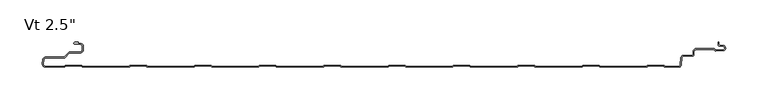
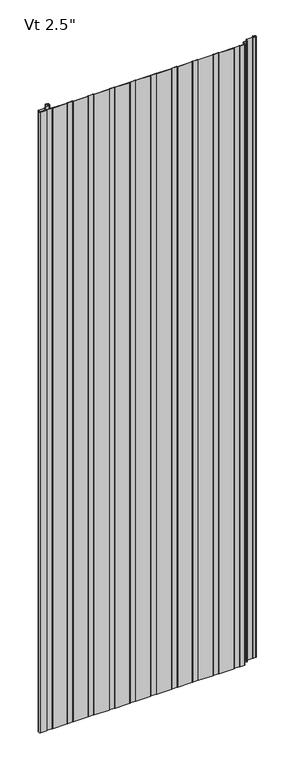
"""IFC4 building model written with IfcOpenShell, lengths in millimetres: plate geometry."""

from ifc_helpers import new_model, si_unit, point, frame_2d, origin, origin_with_axes, place, context, project, spatial, polyline, circle_curve, trimmed, segment, composite_curve, outline, extrude, source, transform, mapped, element, save


def plate_a5bf1575(model_context):
    return source(origin(), model_context, "Body", "SweptSolid", [
        extrude(outline(composite_curve([segment(polyline([(-391.6415934, -63.4997351), (-413.4521176, -63.4997351)]), True, "CONTINUOUS"), segment(trimmed(circle_curve(frame_2d((-413.4521176, -59.9294958)), 3.5702393), [point((-413.4521176, -63.4997351))], [point((-417.008762, -59.6182254))], False, "CARTESIAN"), True, "CONTINUOUS"), segment(polyline([(-417.008762, -59.6182254), (-416.5690675, -54.5941788)]), True, "CONTINUOUS"), segment(trimmed(circle_curve(frame_2d((-412.9198392, -55.2049799)), 3.6999926), [point((-416.5690675, -54.5941788))], [point((-412.9198392, -51.5049873))], False, "CARTESIAN"), True, "CONTINUOUS"), segment(polyline([(-412.9198392, -51.5049873), (-391.7773997, -51.5049873)]), True, "CONTINUOUS"), segment(trimmed(circle_curve(frame_2d((-391.7773997, -50.2049899)), 1.2999974), [point((-391.7773997, -51.5049873))], [point((-390.8581627, -51.1242269))], True, "CARTESIAN"), True, "CONTINUOUS"), segment(polyline([(-390.8581627, -51.1242269), (-386.0297453, -46.2958094)]), True, "CONTINUOUS"), segment(trimmed(circle_curve(frame_2d((-384.1205608, -48.2049939)), 2.6999946), [point((-386.0297453, -46.2958094))], [point((-384.1205608, -45.5049993))], False, "CARTESIAN"), True, "CONTINUOUS"), segment(polyline([(-384.1205608, -45.5049993), (-372.3096717, -45.5049993)]), True, "CONTINUOUS"), segment(trimmed(circle_curve(frame_2d((-372.3096717, -43.155004)), 2.3499953), [point((-372.3096717, -45.5049993))], [point((-369.9596764, -43.155004))], True, "CARTESIAN"), True, "CONTINUOUS"), segment(polyline([(-369.9596764, -43.155004), (-369.9596764, -38.7550128)]), True, "CONTINUOUS"), segment(trimmed(circle_curve(frame_2d((-372.3096717, -38.7550128)), 2.3499953), [point((-369.9596764, -38.7550128))], [point((-372.3096717, -36.4050175))], True, "CARTESIAN"), True, "CONTINUOUS"), segment(polyline([(-372.3096717, -36.4050175), (-378.8289779, -36.4050175)]), True, "CONTINUOUS"), segment(trimmed(circle_curve(frame_2d((-378.7686908, -35.2065352)), 1.1999976), [point((-378.8289779, -36.4050175))], [point((-379.9683001, -35.1760133))], False, "CARTESIAN"), True, "CONTINUOUS"), segment(trimmed(circle_curve(frame_2d((-378.7686908, -35.2065352)), 1.1999976), [point((-379.9683001, -35.1760133))], [point((-378.7671761, -34.0065386))], False, "CARTESIAN"), True, "CONTINUOUS"), segment(polyline([(-378.7671761, -34.0065386), (-375.0087827, -34.0065386), (-375.0087827, -35.4050175), (-372.3096717, -35.4050175)]), True, "CONTINUOUS"), segment(trimmed(circle_curve(frame_2d((-372.3096717, -38.7550128)), 3.3499953), [point((-372.3096717, -35.4050175))], [point((-368.9596764, -38.7550128))], False, "CARTESIAN"), True, "CONTINUOUS"), segment(polyline([(-368.9596764, -38.7550128), (-368.9596764, -43.155004)]), True, "CONTINUOUS"), segment(trimmed(circle_curve(frame_2d((-372.3096717, -43.155004)), 3.3499953), [point((-368.9596764, -43.155004))], [point((-372.3096717, -46.5049993))], False, "CARTESIAN"), True, "CONTINUOUS"), segment(polyline([(-372.3096717, -46.5049993), (-384.1205608, -46.5049993)]), True, "CONTINUOUS"), segment(trimmed(circle_curve(frame_2d((-384.1205608, -48.2049939)), 1.6999946), [point((-384.1205608, -46.5049993))], [point((-385.3226385, -47.0029162))], True, "CARTESIAN"), True, "CONTINUOUS"), segment(polyline([(-385.3226385, -47.0029162), (-390.8247096, -52.5049873), (-412.9198392, -52.5049873)]), True, "CONTINUOUS"), segment(trimmed(circle_curve(frame_2d((-412.9198392, -55.2049799)), 2.6999926), [point((-412.9198392, -52.5049873))], [point((-415.5765709, -54.7235893))], True, "CARTESIAN"), True, "CONTINUOUS"), segment(polyline([(-415.5765709, -54.7235893), (-416.0125699, -59.7054102)]), True, "CONTINUOUS"), segment(trimmed(circle_curve(frame_2d((-413.4521176, -59.9294958)), 2.5702393), [point((-416.0125699, -59.7054102))], [point((-413.4521176, -62.4997351))], True, "CARTESIAN"), True, "CONTINUOUS"), segment(polyline([(-413.4521176, -62.4997351), (-391.4790962, -62.4997351), (-390.2791277, -61.2997666), (-370.5597151, -61.2997666), (-369.3594844, -62.4999973), (-315.2793527, -62.4999973), (-314.079122, -61.2997666), (-294.3597095, -61.2997666), (-293.1594787, -62.4999973), (-239.079347, -62.4999973), (-237.8791163, -61.2997666), (-218.1597038, -61.2997666), (-216.9594731, -62.4999973), (-162.8793413, -62.4999973), (-161.6791106, -61.2997666), (-141.9596981, -61.2997666), (-140.7594674, -62.4999973), (-86.6793356, -62.4999973), (-85.4791049, -61.2997666), (-65.7596924, -61.2997666), (-64.5594617, -62.4999973), (-10.4793299, -62.4999973), (-9.2790992, -61.2997666), (10.4403133, -61.2997666), (11.640544, -62.4999973), (65.7206758, -62.4999973), (66.9209065, -61.2997666), (86.640319, -61.2997666), (87.8405497, -62.4999973), (141.9206815, -62.4999973), (143.1209122, -61.2997666), (162.8403247, -61.2997666), (164.0405554, -62.4999973), (218.1206872, -62.4999973), (219.3209179, -61.2997666), (239.0403304, -61.2997666), (240.2405611, -62.4999973), (294.3206929, -62.4999973), (295.5209236, -61.2997666), (315.2403361, -61.2997666), (316.4396652, -62.4990957), (332.5384359, -62.4990957)]), True, "CONTINUOUS"), segment(trimmed(circle_curve(frame_2d((332.5384359, -60.5491016)), 1.9499941), [point((332.5384359, -62.4990957))], [point((334.4810097, -60.7190548))], True, "CARTESIAN"), True, "CONTINUOUS"), segment(polyline([(334.4810097, -60.7190548), (335.2215397, -52.2547583)]), True, "CONTINUOUS"), segment(trimmed(circle_curve(frame_2d((338.2400056, -52.5188399)), 3.0299959), [point((335.2215397, -52.2547583))], [point((338.3657441, -49.491454))], False, "CARTESIAN"), True, "CONTINUOUS"), segment(polyline([(338.3657441, -49.491454), (348.4595941, -49.491454)]), True, "CONTINUOUS"), segment(trimmed(circle_curve(frame_2d((348.4595941, -48.5423006)), 0.9491534), [point((348.4595941, -49.491454))], [point((349.4087475, -48.5423006))], True, "CARTESIAN"), True, "CONTINUOUS"), segment(polyline([(349.4087475, -48.5423006), (349.4087475, -45.4009009)]), True, "CONTINUOUS"), segment(trimmed(circle_curve(frame_2d((353.4087415, -45.4009009)), 3.999994), [point((349.4087475, -45.4009009))], [point((353.4087415, -41.4009069))], False, "CARTESIAN"), True, "CONTINUOUS"), segment(polyline([(353.4087415, -41.4009069), (374.5895515, -41.4009069), (375.7334028, -43.3821154), (384.706811, -43.026855)]), True, "CONTINUOUS"), segment(trimmed(circle_curve(frame_2d((384.6236622, -40.9266264)), 2.1018739), [point((384.706811, -43.026855))], [point((384.7037148, -38.8262775))], True, "CARTESIAN"), True, "CONTINUOUS"), segment(polyline([(384.7037148, -38.8262775), (380.6977997, -38.5818625)]), True, "CONTINUOUS"), segment(trimmed(circle_curve(frame_2d((380.8099653, -36.743489)), 1.8417922), [point((380.6977997, -38.5818625))], [point((378.9686884, -36.78705))], False, "CARTESIAN"), True, "CONTINUOUS"), segment(polyline([(378.9686884, -36.78705), (378.9686884, -34.0025034), (379.9686884, -34.0025034), (379.9686884, -36.7729362)]), True, "CONTINUOUS"), segment(trimmed(circle_curve(frame_2d((380.8099653, -36.743489)), 0.8417922), [point((379.9686884, -36.7729362))], [point((380.7587, -37.5837187))], True, "CARTESIAN"), True, "CONTINUOUS"), segment(polyline([(380.7587, -37.5837187), (384.7543204, -37.8275055)]), True, "CONTINUOUS"), segment(trimmed(circle_curve(frame_2d((384.6236622, -40.9266264)), 3.1018739), [point((384.7543204, -37.8275055))], [point((384.7463704, -44.0260723))], False, "CARTESIAN"), True, "CONTINUOUS"), segment(polyline([(384.7463704, -44.0260723), (376.0344401, -44.3709806)]), True, "CONTINUOUS"), segment(trimmed(circle_curve(frame_2d((375.987224, -42.9217524)), 1.4499971), [point((376.0344401, -44.3709806))], [point((374.7314897, -43.646751))], False, "CARTESIAN"), True, "CONTINUOUS"), segment(polyline([(374.7314897, -43.646751), (374.0122013, -42.4009069), (353.4087415, -42.4009069)]), True, "CONTINUOUS"), segment(trimmed(circle_curve(frame_2d((353.4087415, -45.4009009)), 2.999994), [point((353.4087415, -42.4009069))], [point((350.4087475, -45.4009009))], True, "CARTESIAN"), True, "CONTINUOUS"), segment(polyline([(350.4087475, -45.4009009), (350.4087475, -48.5423006)]), True, "CONTINUOUS"), segment(trimmed(circle_curve(frame_2d((348.4595941, -48.5423006)), 1.9491534), [point((350.4087475, -48.5423006))], [point((348.4595941, -50.491454))], False, "CARTESIAN"), True, "CONTINUOUS"), segment(polyline([(348.4595941, -50.491454), (338.3429135, -50.491454)]), True, "CONTINUOUS"), segment(trimmed(circle_curve(frame_2d((338.2400056, -52.5188399)), 2.0299959), [point((338.3429135, -50.491454))], [point((336.2177344, -52.3419141))], True, "CARTESIAN"), True, "CONTINUOUS"), segment(polyline([(336.2177344, -52.3419141), (335.4772044, -60.8062105)]), True, "CONTINUOUS"), segment(trimmed(circle_curve(frame_2d((332.5384359, -60.5491016)), 2.9499941), [point((335.4772044, -60.8062105))], [point((332.5384359, -63.4990957))], False, "CARTESIAN"), True, "CONTINUOUS"), segment(polyline([(332.5384359, -63.4990957), (316.6525313, -63.4990957)]), True, "CONTINUOUS"), segment(trimmed(circle_curve(frame_2d((316.6017161, -62.100021)), 1.3999972), [point((316.6525313, -63.4990957))], [point((315.5576653, -63.0327322))], False, "CARTESIAN"), True, "CONTINUOUS"), segment(polyline([(315.5576653, -63.0327322), (314.8246997, -62.2997666), (295.9340305, -62.2997666), (295.2010858, -63.0327112)]), True, "CONTINUOUS"), segment(trimmed(circle_curve(frame_2d((294.157035, -62.1000001)), 1.3999972), [point((295.2010858, -63.0327112))], [point((294.157035, -63.4999973))], False, "CARTESIAN"), True, "CONTINUOUS"), segment(polyline([(294.157035, -63.4999973), (240.4095218, -63.4999973)]), True, "CONTINUOUS"), segment(trimmed(circle_curve(frame_2d((240.4018685, -62.100021)), 1.3999972), [point((240.4095218, -63.4999973))], [point((239.3578177, -63.0327322))], False, "CARTESIAN"), True, "CONTINUOUS"), segment(polyline([(239.3578177, -63.0327322), (238.6248521, -62.2997666), (219.7341829, -62.2997666), (219.0012382, -63.0327112)]), True, "CONTINUOUS"), segment(trimmed(circle_curve(frame_2d((217.9571874, -62.1000001)), 1.3999972), [point((219.0012382, -63.0327112))], [point((217.9571874, -63.4999973))], False, "CARTESIAN"), True, "CONTINUOUS"), segment(polyline([(217.9571874, -63.4999973), (164.2096742, -63.4999973)]), True, "CONTINUOUS"), segment(trimmed(circle_curve(frame_2d((164.2020209, -62.100021)), 1.3999972), [point((164.2096742, -63.4999973))], [point((163.1579701, -63.0327322))], False, "CARTESIAN"), True, "CONTINUOUS"), segment(polyline([(163.1579701, -63.0327322), (162.4250045, -62.2997666), (143.5343353, -62.2997666), (142.8013906, -63.0327112)]), True, "CONTINUOUS"), segment(trimmed(circle_curve(frame_2d((141.7573398, -62.1000001)), 1.3999972), [point((142.8013906, -63.0327112))], [point((141.7573398, -63.4999973))], False, "CARTESIAN"), True, "CONTINUOUS"), segment(polyline([(141.7573398, -63.4999973), (88.0098266, -63.4999973)]), True, "CONTINUOUS"), segment(trimmed(circle_curve(frame_2d((88.0021733, -62.100021)), 1.3999972), [point((88.0098266, -63.4999973))], [point((86.9581225, -63.0327322))], False, "CARTESIAN"), True, "CONTINUOUS"), segment(polyline([(86.9581225, -63.0327322), (86.2251569, -62.2997666), (67.3344877, -62.2997666), (66.601543, -63.0327112)]), True, "CONTINUOUS"), segment(trimmed(circle_curve(frame_2d((65.5574922, -62.1000001)), 1.3999972), [point((66.601543, -63.0327112))], [point((65.5574922, -63.4999973))], False, "CARTESIAN"), True, "CONTINUOUS"), segment(polyline([(65.5574922, -63.4999973), (11.809979, -63.4999973)]), True, "CONTINUOUS"), segment(trimmed(circle_curve(frame_2d((11.8023257, -62.100021)), 1.3999972), [point((11.809979, -63.4999973))], [point((10.7582749, -63.0327322))], False, "CARTESIAN"), True, "CONTINUOUS"), segment(polyline([(10.7582749, -63.0327322), (10.0253093, -62.2997666), (-8.8653599, -62.2997666), (-9.5983046, -63.0327112)]), True, "CONTINUOUS"), segment(trimmed(circle_curve(frame_2d((-10.6423554, -62.1000001)), 1.3999972), [point((-9.5983046, -63.0327112))], [point((-10.6423554, -63.4999973))], False, "CARTESIAN"), True, "CONTINUOUS"), segment(polyline([(-10.6423554, -63.4999973), (-64.3898686, -63.4999973)]), True, "CONTINUOUS"), segment(trimmed(circle_curve(frame_2d((-64.3975219, -62.100021)), 1.3999972), [point((-64.3898686, -63.4999973))], [point((-65.4415727, -63.0327322))], False, "CARTESIAN"), True, "CONTINUOUS"), segment(polyline([(-65.4415727, -63.0327322), (-66.1745383, -62.2997666), (-85.0652075, -62.2997666), (-85.7981522, -63.0327112)]), True, "CONTINUOUS"), segment(trimmed(circle_curve(frame_2d((-86.842203, -62.1000001)), 1.3999972), [point((-85.7981522, -63.0327112))], [point((-86.842203, -63.4999973))], False, "CARTESIAN"), True, "CONTINUOUS"), segment(polyline([(-86.842203, -63.4999973), (-140.5897162, -63.4999973)]), True, "CONTINUOUS"), segment(trimmed(circle_curve(frame_2d((-140.5973695, -62.100021)), 1.3999972), [point((-140.5897162, -63.4999973))], [point((-141.6414203, -63.0327322))], False, "CARTESIAN"), True, "CONTINUOUS"), segment(polyline([(-141.6414203, -63.0327322), (-142.3743859, -62.2997666), (-161.2650551, -62.2997666), (-161.9979998, -63.0327112)]), True, "CONTINUOUS"), segment(trimmed(circle_curve(frame_2d((-163.0420506, -62.1000001)), 1.3999972), [point((-161.9979998, -63.0327112))], [point((-163.0420506, -63.4999973))], False, "CARTESIAN"), True, "CONTINUOUS"), segment(polyline([(-163.0420506, -63.4999973), (-216.7895638, -63.4999973)]), True, "CONTINUOUS"), segment(trimmed(circle_curve(frame_2d((-216.7972171, -62.100021)), 1.3999972), [point((-216.7895638, -63.4999973))], [point((-217.8412679, -63.0327322))], False, "CARTESIAN"), True, "CONTINUOUS"), segment(polyline([(-217.8412679, -63.0327322), (-218.5742335, -62.2997666), (-237.4649027, -62.2997666), (-238.1978474, -63.0327112)]), True, "CONTINUOUS"), segment(trimmed(circle_curve(frame_2d((-239.2418982, -62.1000001)), 1.3999972), [point((-238.1978474, -63.0327112))], [point((-239.2418982, -63.4999973))], False, "CARTESIAN"), True, "CONTINUOUS"), segment(polyline([(-239.2418982, -63.4999973), (-292.9894114, -63.4999973)]), True, "CONTINUOUS"), segment(trimmed(circle_curve(frame_2d((-292.9970647, -62.100021)), 1.3999972), [point((-292.9894114, -63.4999973))], [point((-294.0411155, -63.0327322))], False, "CARTESIAN"), True, "CONTINUOUS"), segment(polyline([(-294.0411155, -63.0327322), (-294.7740811, -62.2997666), (-313.6647503, -62.2997666), (-314.397695, -63.0327112)]), True, "CONTINUOUS"), segment(trimmed(circle_curve(frame_2d((-315.4417458, -62.1000001)), 1.3999972), [point((-314.397695, -63.0327112))], [point((-315.4417458, -63.4999973))], False, "CARTESIAN"), True, "CONTINUOUS"), segment(polyline([(-315.4417458, -63.4999973), (-369.189259, -63.4999973)]), True, "CONTINUOUS"), segment(trimmed(circle_curve(frame_2d((-369.1969123, -62.100021)), 1.3999972), [point((-369.189259, -63.4999973))], [point((-370.2409631, -63.0327322))], False, "CARTESIAN"), True, "CONTINUOUS"), segment(polyline([(-370.2409631, -63.0327322), (-370.9739287, -62.2997666), (-389.8649141, -62.2997666), (-390.5976403, -63.0324928)]), True, "CONTINUOUS"), segment(trimmed(circle_curve(frame_2d((-391.6415934, -62.099869)), 1.3998661), [point((-390.5976403, -63.0324928))], [point((-391.6415934, -63.4997351))], False, "CARTESIAN"), True, "CONTINUOUS")], self_intersect=False)), origin_with_axes(), (0.0, 0.0, 1.0), 2400.0),
    ])


if __name__ == "__main__":
    model = new_model("IFC4")
    model_context = context("Model", 3, world=origin())
    ifc_project = project(units=[si_unit("LENGTHUNIT", "METRE", prefix="MILLI")], contexts=[model_context])
    site = spatial("IfcSite", under=ifc_project)
    building = spatial("IfcBuilding", under=site)
    placement = place(None, origin())
    plate_shape = plate_a5bf1575(model_context)
    element("IfcPlate", 1, ObjectType="KIP-30-Karrier-KP-R19-CP-Vt-SL_SL : Vt 2.5\"", at=placement, inside=building, context=model_context, shape_type="MappedRepresentation", body=[
        mapped(plate_shape, transform((0.0, 0.0, 0.0), x_axis=(1.0, 0.0, 0.0), y_axis=(0.0, 1.0, 0.0), z_axis=(0.0, 0.0, 1.0))),
    ])
    save(model, "model.ifc")
